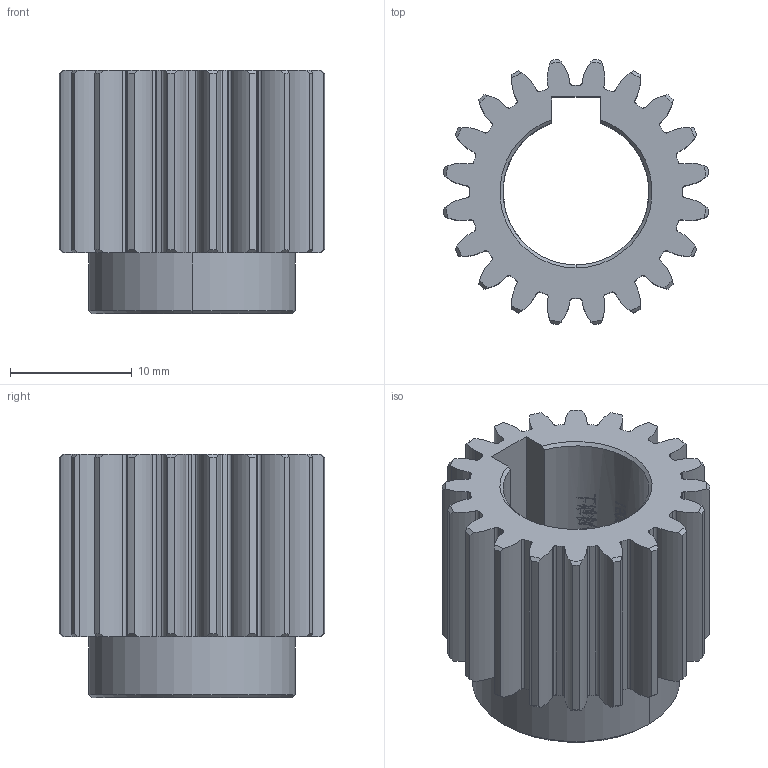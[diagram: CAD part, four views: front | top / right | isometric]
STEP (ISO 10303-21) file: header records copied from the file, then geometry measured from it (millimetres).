
FILE_DESCRIPTION (( 'STEP AP214' ), '1' );
FILE_NAME ('1M-20-12.step', '2021-11-27T08:49:34', ( 'IT Division' ), ( 'IT' ), 'SwSTEP 2.0', 'SolidWorks 2016', '' );
FILE_SCHEMA (( 'AUTOMOTIVE_DESIGN' ));
Length unit declared in the file: millimetre
Products named in the file (1): 1M-20-12
Bounding box: 21.82 x 21.82 x 20 mm (x, y, z)
Volume: 3337.1 mm3; surface area: 3319.3 mm2
Topology: 1 solids, 1 shells, 357 faces, 2362 edges, 2174 vertices
Faces by surface type: cylinder 306, cone 45, plane 6
Entity records: 30117 total; most frequent: CARTESIAN_POINT 13605, ORIENTED_EDGE 4724, EDGE_CURVE 2362, DIRECTION 2250, VERTEX_POINT 2174, AXIS2_PLACEMENT_3D 884, B_SPLINE_CURVE_WITH_KNOTS 824, CIRCLE 526
